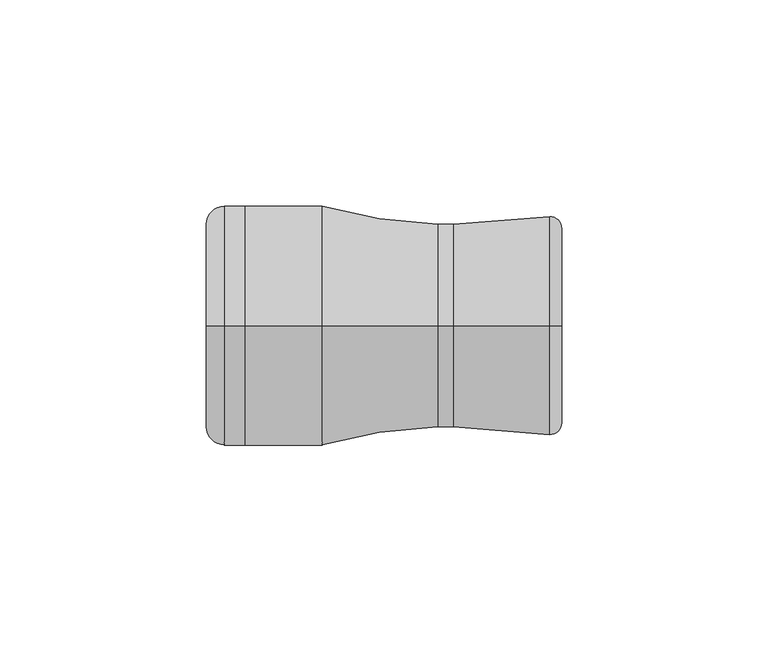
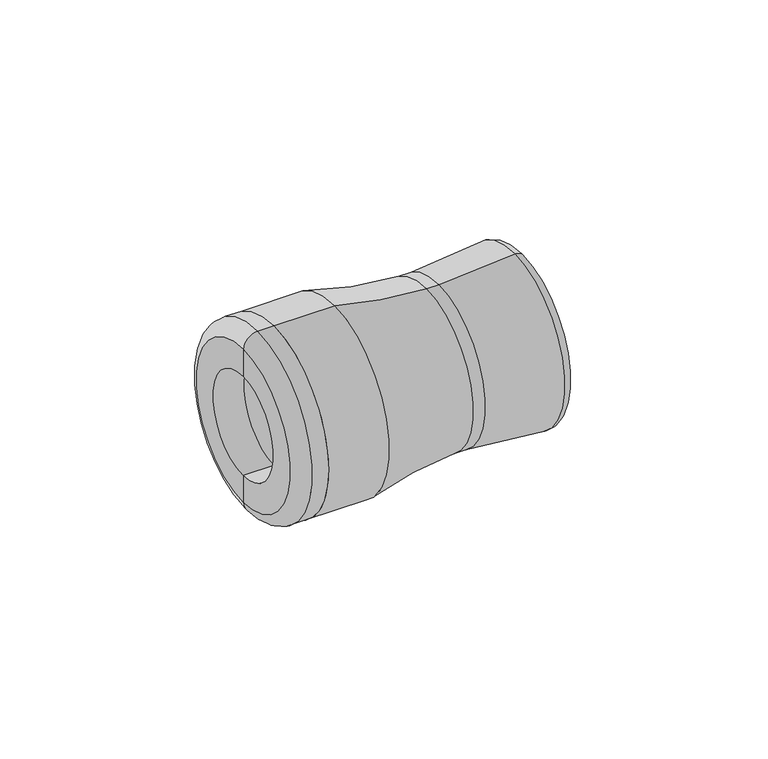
"""IFC4 building model written with IfcOpenShell, lengths in millimetres: pipe fitting geometry, Plumbing_Pipe-Fittings_Plasson_Female Adaptor-with-Threaded-Brass-Offtake_1073 : Plumbing_Pipe-Fittings_Plasson_Female Adaptor-with-Threaded-Brass-Offtake_1073."""

from ifc_helpers import new_model, si_unit, point, frame, origin, place, context, project, spatial, polyline, circle_curve, ellipse_curve, trimmed, source, transform, mapped, element, save
from ifc_brep_helpers import plane_surface, cylinder_surface, revolved_surface, advanced_brep


def pipe_fitting_ba8de908(model_context):
    return source(origin(), model_context, "Body", "AdvancedBrep", [
        advanced_brep(
        [(0.8817136, 0.0, -14.05), (0.8817136, 0.0, 14.05), (0.8817136, 0.0, 12.05), (0.8817136, 0.0, -12.05), (-15.1182864, 0.0, -12.05), (-15.1182864, 0.0, 12.05), (-15.1182864, 0.0, 14.05), (-15.1182864, 0.0, -14.05)],
        [
            (0, 1, circle_curve(frame((0.8817136, 0.0, 0.0), z_axis=(1.0, 0.0, 0.0), x_axis=(0.0, 0.0, 1.0)), 14.05)),
            (1, 2),
            (2, 3, circle_curve(frame((0.8817136, 0.0, 0.0), z_axis=(-1.0, 0.0, 0.0), x_axis=(0.0, 0.0, 1.0)), 12.05)),
            (3, 0),
            (1, 0, circle_curve(frame((0.8817136, 0.0, 0.0), z_axis=(1.0, 0.0, 0.0), x_axis=(0.0, 0.0, 1.0)), 14.05)),
            (3, 2, circle_curve(frame((0.8817136, 0.0, 0.0), z_axis=(-1.0, 0.0, 0.0), x_axis=(0.0, 0.0, 1.0)), 12.05)),
            (4, 5, circle_curve(frame((-15.1182864, 0.0, 0.0), z_axis=(1.0, 0.0, 0.0), x_axis=(0.0, 0.0, 1.0)), 12.05)),
            (5, 6),
            (6, 7, circle_curve(frame((-15.1182864, 0.0, 0.0), z_axis=(-1.0, 0.0, 0.0), x_axis=(0.0, 0.0, 1.0)), 14.05)),
            (7, 4),
            (5, 4, circle_curve(frame((-15.1182864, 0.0, 0.0), z_axis=(1.0, 0.0, 0.0), x_axis=(0.0, 0.0, 1.0)), 12.05)),
            (7, 6, circle_curve(frame((-15.1182864, 0.0, 0.0), z_axis=(-1.0, 0.0, 0.0), x_axis=(0.0, 0.0, 1.0)), 14.05)),
            (6, 1),
            (0, 7),
            (2, 5),
            (4, 3),
        ],
        [
            plane_surface(frame((0.8817136, 0.0, 0.0), z_axis=(1.0, 0.0, 0.0), x_axis=(0.0, 0.0, 1.0))),
            plane_surface(frame((-15.1182864, 0.0, 0.0), z_axis=(-1.0, 0.0, 0.0), x_axis=(0.0, 0.0, 1.0))),
            cylinder_surface(frame((-4.784953, 0.0, 0.0), z_axis=(-1.0, 0.0, 0.0), x_axis=(0.0, 0.0, 1.0)), 14.05),
            revolved_surface(polyline([(-15.1182864, 0.0, 12.05), (0.8817136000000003, 0.0, 12.05)]), (-4.784953, 0.0, 0.0), (-1.0, 0.0, 0.0)),
        ],
        [
            (0, [[1, 2, 3, 4]]),
            (0, [[5, -4, 6, -2]]),
            (1, [[7, 8, 9, 10]]),
            (1, [[11, -10, 12, -8]]),
            (2, [[-9, 13, -1, 14]]),
            (2, [[-12, -14, -5, -13]]),
            (3, [[-3, 15, -7, 16]]),
            (3, [[-6, -16, -11, -15]]),
        ],
    ),
        advanced_brep(
        [(-75.784953, 0.0, -16.0), (-75.784953, 0.0, 16.0), (-85.1182864, 0.0, 16.0), (-85.1182864, 0.0, -16.0), (-85.1182864, 0.0, 24.6666667), (-85.1182864, 0.0, -24.6666667), (-80.784953, 0.0, 29.0), (-80.784953, 0.0, -29.0), (-75.784953, 0.0, 29.0), (-75.784953, 0.0, -29.0)],
        [
            (0, 1, circle_curve(frame((-75.784953, 0.0, 0.0), z_axis=(1.0, 0.0, 0.0), x_axis=(0.0, 0.0, 1.0)), 16.0)),
            (1, 2),
            (2, 3, circle_curve(frame((-85.1182864, 0.0, 0.0), z_axis=(-1.0, 0.0, 0.0), x_axis=(0.0, 0.0, 1.0)), 16.0)),
            (3, 0),
            (1, 0, circle_curve(frame((-75.784953, 0.0, 0.0), z_axis=(1.0, 0.0, 0.0), x_axis=(0.0, 0.0, 1.0)), 16.0)),
            (3, 2, circle_curve(frame((-85.1182864, 0.0, 0.0), z_axis=(-1.0, 0.0, 0.0), x_axis=(0.0, 0.0, 1.0)), 16.0)),
            (2, 4),
            (4, 5, circle_curve(frame((-85.1182864, 0.0, 0.0), z_axis=(-1.0, 0.0, 0.0), x_axis=(0.0, 0.0, 1.0)), 24.6666667)),
            (5, 3),
            (5, 4, circle_curve(frame((-85.1182864, 0.0, 0.0), z_axis=(-1.0, 0.0, 0.0), x_axis=(0.0, 0.0, 1.0)), 24.6666667)),
            (4, 6, circle_curve(frame((-80.784953, 0.0, 24.6666667), z_axis=(0.0, 1.0, 0.0), x_axis=(-1.0, 0.0, 0.0)), 4.3333333)),
            (6, 7, circle_curve(frame((-80.784953, 0.0, 0.0), z_axis=(-1.0, 0.0, 0.0), x_axis=(0.0, 0.0, 1.0)), 29.0)),
            (7, 5, circle_curve(frame((-80.784953, 0.0, -24.6666667), z_axis=(0.0, 1.0, 0.0), x_axis=(-1.0, 0.0, 0.0)), 4.3333333)),
            (7, 6, circle_curve(frame((-80.784953, 0.0, 0.0), z_axis=(-1.0, 0.0, 0.0), x_axis=(0.0, 0.0, 1.0)), 29.0)),
            (6, 8),
            (8, 9, circle_curve(frame((-75.784953, 0.0, 0.0), z_axis=(-1.0, 0.0, 0.0), x_axis=(0.0, 0.0, 1.0)), 29.0)),
            (9, 7),
            (9, 8, circle_curve(frame((-75.784953, 0.0, 0.0), z_axis=(-1.0, 0.0, 0.0), x_axis=(0.0, 0.0, 1.0)), 29.0)),
            (8, 1),
            (0, 9),
        ],
        [
            revolved_surface(polyline([(-85.1182864, 0.0, 16.0), (-75.784953, 0.0, 16.0)]), (-61.5654501, 0.0, 0.0), (-1.0, 0.0, 0.0)),
            plane_surface(frame((-85.1182864, 0.0, 0.0), z_axis=(-1.0, 0.0, 0.0), x_axis=(0.0, 0.0, 1.0))),
            revolved_surface(trimmed(ellipse_curve(frame((-80.784953, 0.0, 24.6666667), z_axis=(0.0, -1.0, 0.0), x_axis=(-1.0, 0.0, 0.0)), 4.3333333, 4.3333333), [point((-80.784953, 0.0, 29.0))], [point((-85.1182864, 0.0, 24.6666667))], True, "CARTESIAN"), (-61.5654501, 0.0, 0.0), (-1.0, 0.0, 0.0)),
            cylinder_surface(frame((-61.5654501, 0.0, 0.0), z_axis=(-1.0, 0.0, 0.0), x_axis=(0.0, 0.0, 1.0)), 29.0),
            plane_surface(frame((-75.784953, 0.0, 0.0), z_axis=(1.0, 0.0, 0.0), x_axis=(0.0, 0.0, 1.0))),
        ],
        [
            (0, [[1, 2, 3, 4]]),
            (0, [[5, -4, 6, -2]]),
            (1, [[-3, 7, 8, 9]]),
            (1, [[-6, -9, 10, -7]]),
            (2, [[-8, 11, 12, 13]]),
            (2, [[-10, -13, 14, -11]]),
            (3, [[-12, 15, 16, 17]]),
            (3, [[-14, -17, 18, -15]]),
            (4, [[-16, 19, -1, 20]]),
            (4, [[-18, -20, -5, -19]]),
        ],
    ),
        advanced_brep(
        [(-57.1182864, 0.0, -29.0), (-57.1182864, 0.0, 29.0), (-29.1182864, 0.0, 24.6666667), (-29.1182864, 0.0, -24.6666667), (-25.3682864, 0.0, 24.6666667), (-25.3682864, 0.0, -24.6666667), (-25.3682864, 0.0, -8.525), (-25.3682864, 0.0, 8.525), (-29.1182864, 0.0, 8.525), (-29.1182864, 0.0, -8.525), (-29.1182864, 0.0, 16.0), (-29.1182864, 0.0, -16.0), (-75.784953, 0.0, 16.0), (-75.784953, 0.0, -16.0), (-75.784953, 0.0, 29.0), (-75.784953, 0.0, -29.0), (0.8817136, 0.0, -23.6666667), (0.8817136, 0.0, 23.6666667), (0.8817136, 0.0, 14.05), (0.8817136, 0.0, -14.05), (-15.1182864, 0.0, 14.05), (-15.1182864, 0.0, -14.05), (-2.0071753, 0.0, -26.5555556), (-2.0071753, 0.0, 26.5555556)],
        [
            (0, 1, circle_curve(frame((-57.1182864, 0.0, 0.0), z_axis=(1.0, 0.0, 0.0), x_axis=(0.0, 0.0, 1.0)), 29.0)),
            (1, 2, circle_curve(frame((-25.0104841, 0.0, 143.8375941), z_axis=(0.0, -1.0, 0.0), x_axis=(-1.0, 0.0, 0.0)), 119.2417041)),
            (2, 3, circle_curve(frame((-29.1182864, 0.0, 0.0), z_axis=(-1.0, 0.0, 0.0), x_axis=(0.0, 0.0, 1.0)), 24.6666667)),
            (3, 0, circle_curve(frame((-25.0104841, 0.0, -143.8375941), z_axis=(0.0, -1.0, 0.0), x_axis=(-1.0, 0.0, 0.0)), 119.2417041)),
            (1, 0, circle_curve(frame((-57.1182864, 0.0, 0.0), z_axis=(1.0, 0.0, 0.0), x_axis=(0.0, 0.0, 1.0)), 29.0)),
            (3, 2, circle_curve(frame((-29.1182864, 0.0, 0.0), z_axis=(-1.0, 0.0, 0.0), x_axis=(0.0, 0.0, 1.0)), 24.6666667)),
            (2, 4),
            (4, 5, circle_curve(frame((-25.3682864, 0.0, 0.0), z_axis=(-1.0, 0.0, 0.0), x_axis=(0.0, 0.0, 1.0)), 24.6666667)),
            (5, 3),
            (5, 4, circle_curve(frame((-25.3682864, 0.0, 0.0), z_axis=(-1.0, 0.0, 0.0), x_axis=(0.0, 0.0, 1.0)), 24.6666667)),
            (6, 7, circle_curve(frame((-25.3682864, 0.0, 0.0), z_axis=(1.0, 0.0, 0.0), x_axis=(0.0, 0.0, 1.0)), 8.525)),
            (7, 8),
            (8, 9, circle_curve(frame((-29.1182864, 0.0, 0.0), z_axis=(-1.0, 0.0, 0.0), x_axis=(0.0, 0.0, 1.0)), 8.525)),
            (9, 6),
            (7, 6, circle_curve(frame((-25.3682864, 0.0, 0.0), z_axis=(1.0, 0.0, 0.0), x_axis=(0.0, 0.0, 1.0)), 8.525)),
            (9, 8, circle_curve(frame((-29.1182864, 0.0, 0.0), z_axis=(-1.0, 0.0, 0.0), x_axis=(0.0, 0.0, 1.0)), 8.525)),
            (8, 10),
            (10, 11, circle_curve(frame((-29.1182864, 0.0, 0.0), z_axis=(-1.0, 0.0, 0.0), x_axis=(0.0, 0.0, 1.0)), 16.0)),
            (11, 9),
            (11, 10, circle_curve(frame((-29.1182864, 0.0, 0.0), z_axis=(-1.0, 0.0, 0.0), x_axis=(0.0, 0.0, 1.0)), 16.0)),
            (10, 12),
            (12, 13, circle_curve(frame((-75.784953, 0.0, 0.0), z_axis=(-1.0, 0.0, 0.0), x_axis=(0.0, 0.0, 1.0)), 16.0)),
            (13, 11),
            (13, 12, circle_curve(frame((-75.784953, 0.0, 0.0), z_axis=(-1.0, 0.0, 0.0), x_axis=(0.0, 0.0, 1.0)), 16.0)),
            (12, 14),
            (14, 15, circle_curve(frame((-75.784953, 0.0, 0.0), z_axis=(-1.0, 0.0, 0.0), x_axis=(0.0, 0.0, 1.0)), 29.0)),
            (15, 13),
            (15, 14, circle_curve(frame((-75.784953, 0.0, 0.0), z_axis=(-1.0, 0.0, 0.0), x_axis=(0.0, 0.0, 1.0)), 29.0)),
            (14, 1),
            (0, 15),
            (16, 17, circle_curve(frame((0.8817136, 0.0, 0.0), z_axis=(1.0, 0.0, 0.0), x_axis=(0.0, 0.0, 1.0)), 23.6666667)),
            (17, 18),
            (18, 19, circle_curve(frame((0.8817136, 0.0, 0.0), z_axis=(-1.0, 0.0, 0.0), x_axis=(0.0, 0.0, 1.0)), 14.05)),
            (19, 16),
            (17, 16, circle_curve(frame((0.8817136, 0.0, 0.0), z_axis=(1.0, 0.0, 0.0), x_axis=(0.0, 0.0, 1.0)), 23.6666667)),
            (19, 18, circle_curve(frame((0.8817136, 0.0, 0.0), z_axis=(-1.0, 0.0, 0.0), x_axis=(0.0, 0.0, 1.0)), 14.05)),
            (18, 20),
            (20, 21, circle_curve(frame((-15.1182864, 0.0, 0.0), z_axis=(-1.0, 0.0, 0.0), x_axis=(0.0, 0.0, 1.0)), 14.05)),
            (21, 19),
            (21, 20, circle_curve(frame((-15.1182864, 0.0, 0.0), z_axis=(-1.0, 0.0, 0.0), x_axis=(0.0, 0.0, 1.0)), 14.05)),
            (20, 7),
            (6, 21),
            (22, 23, circle_curve(frame((-2.0071753, 0.0, 0.0), z_axis=(1.0, 0.0, 0.0), x_axis=(0.0, 0.0, 1.0)), 26.5555556)),
            (23, 17, circle_curve(frame((-2.0071753, 0.0, 23.6666667), z_axis=(0.0, 1.0, 0.0), x_axis=(-1.0, 0.0, 0.0)), 2.8888889)),
            (16, 22, circle_curve(frame((-2.0071753, 0.0, -23.6666667), z_axis=(0.0, 1.0, 0.0), x_axis=(-1.0, 0.0, 0.0)), 2.8888889)),
            (23, 22, circle_curve(frame((-2.0071753, 0.0, 0.0), z_axis=(1.0, 0.0, 0.0), x_axis=(0.0, 0.0, 1.0)), 26.5555556)),
            (4, 23),
            (22, 5),
        ],
        [
            revolved_surface(trimmed(ellipse_curve(frame((-25.0104841, 0.0, 143.8375941), z_axis=(0.0, 1.0, 0.0), x_axis=(-1.0, 0.0, 0.0)), 119.2417041, 119.2417041), [point((-29.1182864, 0.0, 24.6666667))], [point((-57.1182864, 0.0, 29.0))], True, "CARTESIAN"), (-57.1182864, 0.0, 0.0), (-1.0, 0.0, 0.0)),
            cylinder_surface(frame((-57.1182864, 0.0, 0.0), z_axis=(-1.0, 0.0, 0.0), x_axis=(0.0, 0.0, 1.0)), 24.6666667),
            revolved_surface(polyline([(-29.1182864, 0.0, 8.525), (-25.3682864, 0.0, 8.525)]), (-57.1182864, 0.0, 0.0), (-1.0, 0.0, 0.0)),
            plane_surface(frame((-29.1182864, 0.0, 0.0), z_axis=(-1.0, 0.0, 0.0), x_axis=(0.0, 0.0, 1.0))),
            revolved_surface(polyline([(-75.784953, 0.0, 16.0), (-29.1182864, 0.0, 16.0)]), (-57.1182864, 0.0, 0.0), (-1.0, 0.0, 0.0)),
            plane_surface(frame((-75.784953, 0.0, 0.0), z_axis=(-1.0, 0.0, 0.0), x_axis=(0.0, 0.0, 1.0))),
            cylinder_surface(frame((-57.1182864, 0.0, 0.0), z_axis=(-1.0, 0.0, 0.0), x_axis=(0.0, 0.0, 1.0)), 29.0),
            plane_surface(frame((0.8817136, 0.0, 0.0), z_axis=(1.0, 0.0, 0.0), x_axis=(0.0, 0.0, 1.0))),
            revolved_surface(polyline([(-15.118286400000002, 0.0, 14.05), (0.8817135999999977, 0.0, 14.05)]), (-57.1182864, 0.0, 0.0), (-1.0, 0.0, 0.0)),
            revolved_surface(polyline([(-25.3682864, 0.0, 8.525), (-15.1182864, 0.0, 14.05)]), (-57.1182864, 0.0, 0.0), (-1.0, 0.0, 0.0)),
            revolved_surface(trimmed(ellipse_curve(frame((-2.0071753, 0.0, 23.6666667), z_axis=(0.0, -1.0, 0.0), x_axis=(-1.0, 0.0, 0.0)), 2.8888889, 2.8888889), [point((0.8817136, 0.0, 23.6666667))], [point((-2.0071753, 0.0, 26.5555556))], True, "CARTESIAN"), (-57.1182864, 0.0, 0.0), (-1.0, 0.0, 0.0)),
            revolved_surface(polyline([(-2.0071753, 0.0, 26.5555556), (-25.3682864, 0.0, 24.6666667)]), (-57.1182864, 0.0, 0.0), (-1.0, 0.0, 0.0)),
        ],
        [
            (0, [[1, 2, 3, 4]]),
            (0, [[5, -4, 6, -2]]),
            (1, [[-3, 7, 8, 9]]),
            (1, [[-6, -9, 10, -7]]),
            (2, [[11, 12, 13, 14]]),
            (2, [[15, -14, 16, -12]]),
            (3, [[-13, 17, 18, 19]]),
            (3, [[-16, -19, 20, -17]]),
            (4, [[-18, 21, 22, 23]]),
            (4, [[-20, -23, 24, -21]]),
            (5, [[-22, 25, 26, 27]]),
            (5, [[-24, -27, 28, -25]]),
            (6, [[-26, 29, -1, 30]]),
            (6, [[-28, -30, -5, -29]]),
            (7, [[31, 32, 33, 34]]),
            (7, [[35, -34, 36, -32]]),
            (8, [[-33, 37, 38, 39]]),
            (8, [[-36, -39, 40, -37]]),
            (9, [[-38, 41, -11, 42]]),
            (9, [[-40, -42, -15, -41]]),
            (10, [[43, 44, -31, 45]]),
            (10, [[46, -45, -35, -44]]),
            (11, [[-8, 47, -43, 48]]),
            (11, [[-10, -48, -46, -47]]),
        ],
    ),
    ])


if __name__ == "__main__":
    model = new_model("IFC4")
    model_context = context("Model", 3, world=origin())
    ifc_project = project(units=[si_unit("LENGTHUNIT", "METRE", prefix="MILLI")], contexts=[model_context])
    site = spatial("IfcSite", under=ifc_project)
    building = spatial("IfcBuilding", under=site)
    placement = place(None, origin())
    pipe_fitting_shape = pipe_fitting_ba8de908(model_context)
    element("IfcPipeFitting", 1, ObjectType="Plumbing_Pipe-Fittings_Plasson_Female Adaptor-with-Threaded-Brass-Offtake_1073 : Plumbing_Pipe-Fittings_Plasson_Female Adaptor-with-Threaded-Brass-Offtake_1073", at=placement, inside=building, context=model_context, shape_type="MappedRepresentation", body=[
        mapped(pipe_fitting_shape, transform((0.0, 0.0, 0.0), x_axis=(1.0, 0.0, 0.0), y_axis=(0.0, 1.0, 0.0), z_axis=(0.0, 0.0, 1.0))),
    ])
    save(model, "model.ifc")
